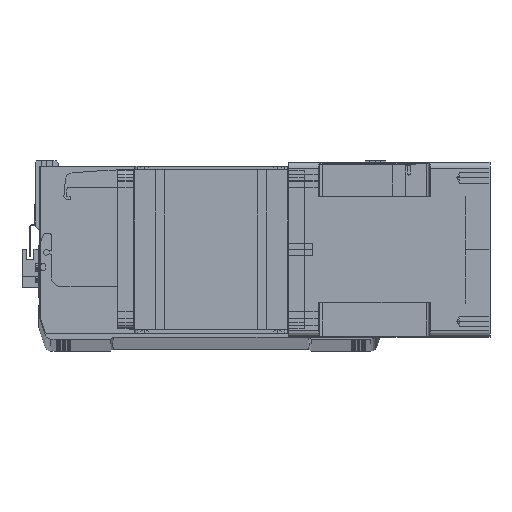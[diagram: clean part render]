
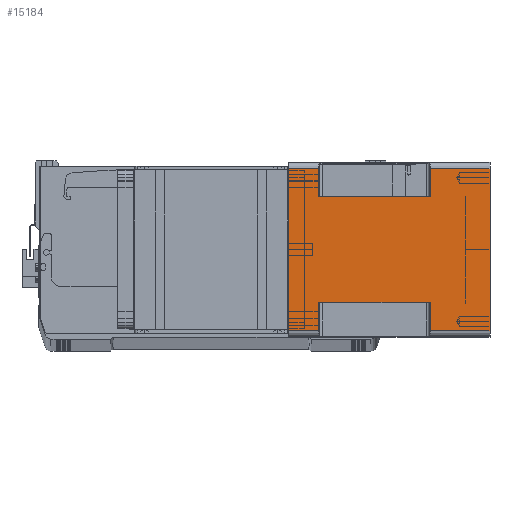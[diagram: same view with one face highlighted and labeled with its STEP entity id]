
A CAD part, top view. The second image highlights one B-rep face of the part: STEP entity #15184.
In plain terms, the highlighted planar face has unit normal (0, 0, 1) as drawn and (1, 0, 0) by its records, which use the part's own axes.
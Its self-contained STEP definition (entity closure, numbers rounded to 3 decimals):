
#41 = CARTESIAN_POINT ( 'NONE',  ( 71., 66., -115.5 ) ) ;
#83 = VECTOR ( 'NONE', #16522, 1000. ) ;
#257 = DIRECTION ( 'NONE',  ( 0., 1., 0. ) ) ;
#405 = LINE ( 'NONE', #7773, #21933 ) ;
#2217 = VERTEX_POINT ( 'NONE', #33979 ) ;
#2599 = LINE ( 'NONE', #5089, #26642 ) ;
#3379 = EDGE_CURVE ( 'NONE', #18017, #13677, #2599, .T. ) ;
#5081 = DIRECTION ( 'NONE',  ( 0., 1., 0. ) ) ;
#5089 = CARTESIAN_POINT ( 'NONE',  ( 71., -66., -164. ) ) ;
#5246 = LINE ( 'NONE', #26255, #12263 ) ;
#5418 = CARTESIAN_POINT ( 'NONE',  ( 71., -66., 0. ) ) ;
#7102 = VERTEX_POINT ( 'NONE', #8790 ) ;
#7237 = ORIENTED_EDGE ( 'NONE', *, *, #3379, .F. ) ;
#7278 = VECTOR ( 'NONE', #27387, 1000. ) ;
#7773 = CARTESIAN_POINT ( 'NONE',  ( 71., 43., -115.5 ) ) ;
#7896 = EDGE_CURVE ( 'NONE', #2217, #13677, #24557, .T. ) ;
#8319 = EDGE_CURVE ( 'NONE', #24211, #33119, #405, .T. ) ;
#8751 = EDGE_CURVE ( 'NONE', #26770, #28446, #14845, .T. ) ;
#8790 = CARTESIAN_POINT ( 'NONE',  ( 71., -66., 0. ) ) ;
#9278 = CARTESIAN_POINT ( 'NONE',  ( 71., 66., -24.5 ) ) ;
#9690 = CARTESIAN_POINT ( 'NONE',  ( 71., -66., -164. ) ) ;
#9747 = PLANE ( 'NONE',  #40061 ) ;
#10117 = LINE ( 'NONE', #5418, #24673 ) ;
#10545 = CARTESIAN_POINT ( 'NONE',  ( 71., 66., -164. ) ) ;
#10808 = EDGE_CURVE ( 'NONE', #17844, #15624, #33464, .T. ) ;
#10998 = CARTESIAN_POINT ( 'NONE',  ( 71., -66., -115.5 ) ) ;
#11136 = ORIENTED_EDGE ( 'NONE', *, *, #8751, .T. ) ;
#11384 = DIRECTION ( 'NONE',  ( 0., 0., 1. ) ) ;
#11915 = EDGE_CURVE ( 'NONE', #2217, #28446, #20369, .T. ) ;
#11996 = VECTOR ( 'NONE', #40745, 1000. ) ;
#12146 = CARTESIAN_POINT ( 'NONE',  ( 71., 66., -164. ) ) ;
#12263 = VECTOR ( 'NONE', #29700, 1000. ) ;
#12268 = ORIENTED_EDGE ( 'NONE', *, *, #23526, .T. ) ;
#12367 = VECTOR ( 'NONE', #5081, 1000. ) ;
#12579 = ORIENTED_EDGE ( 'NONE', *, *, #36401, .F. ) ;
#12890 = CARTESIAN_POINT ( 'NONE',  ( 71., 43., -164. ) ) ;
#13677 = VERTEX_POINT ( 'NONE', #10998 ) ;
#13812 = EDGE_CURVE ( 'NONE', #7102, #21813, #10117, .T. ) ;
#13923 = DIRECTION ( 'NONE',  ( 0., 0., 1. ) ) ;
#14845 = LINE ( 'NONE', #27779, #12367 ) ;
#14854 = LINE ( 'NONE', #18992, #21386 ) ;
#14945 = CARTESIAN_POINT ( 'NONE',  ( 71., -66., -115.5 ) ) ;
#15184 = ADVANCED_FACE ( 'NONE', ( #24360 ), #9747, .T. ) ;
#15356 = ORIENTED_EDGE ( 'NONE', *, *, #15687, .T. ) ;
#15615 = DIRECTION ( 'NONE',  ( 0., 0., 1. ) ) ;
#15624 = VERTEX_POINT ( 'NONE', #9278 ) ;
#15687 = EDGE_CURVE ( 'NONE', #18017, #31133, #5246, .T. ) ;
#15798 = LINE ( 'NONE', #10545, #7278 ) ;
#16210 = CARTESIAN_POINT ( 'NONE',  ( 71., -66., -164. ) ) ;
#16522 = DIRECTION ( 'NONE',  ( 0., 0., 1. ) ) ;
#17844 = VERTEX_POINT ( 'NONE', #34806 ) ;
#18017 = VERTEX_POINT ( 'NONE', #9690 ) ;
#18992 = CARTESIAN_POINT ( 'NONE',  ( 71., 66., -164. ) ) ;
#19650 = ORIENTED_EDGE ( 'NONE', *, *, #8319, .T. ) ;
#20340 = ORIENTED_EDGE ( 'NONE', *, *, #22158, .T. ) ;
#20369 = LINE ( 'NONE', #36308, #34417 ) ;
#21386 = VECTOR ( 'NONE', #15615, 1000. ) ;
#21813 = VERTEX_POINT ( 'NONE', #40743 ) ;
#21933 = VECTOR ( 'NONE', #30020, 1000. ) ;
#22037 = DIRECTION ( 'NONE',  ( 0., 1., 0. ) ) ;
#22158 = EDGE_CURVE ( 'NONE', #15624, #21813, #15798, .T. ) ;
#23526 = EDGE_CURVE ( 'NONE', #31133, #24211, #14854, .T. ) ;
#23902 = EDGE_LOOP ( 'NONE', ( #25556, #40065, #7237, #15356, #12268, #19650, #24331, #29841, #20340, #24419, #12579, #11136 ) ) ;
#24211 = VERTEX_POINT ( 'NONE', #41 ) ;
#24331 = ORIENTED_EDGE ( 'NONE', *, *, #29428, .F. ) ;
#24360 = FACE_OUTER_BOUND ( 'NONE', #23902, .T. ) ;
#24419 = ORIENTED_EDGE ( 'NONE', *, *, #13812, .F. ) ;
#24557 = LINE ( 'NONE', #14945, #11996 ) ;
#24673 = VECTOR ( 'NONE', #24887, 1000. ) ;
#24887 = DIRECTION ( 'NONE',  ( 0., 1., 0. ) ) ;
#25120 = CARTESIAN_POINT ( 'NONE',  ( 71., -66., -24.5 ) ) ;
#25504 = DIRECTION ( 'NONE',  ( 0., 0., -1. ) ) ;
#25556 = ORIENTED_EDGE ( 'NONE', *, *, #11915, .F. ) ;
#26255 = CARTESIAN_POINT ( 'NONE',  ( 71., -66., -164. ) ) ;
#26467 = CARTESIAN_POINT ( 'NONE',  ( 71., -66., -164. ) ) ;
#26642 = VECTOR ( 'NONE', #11384, 1000. ) ;
#26770 = VERTEX_POINT ( 'NONE', #37824 ) ;
#27158 = LINE ( 'NONE', #26467, #83 ) ;
#27387 = DIRECTION ( 'NONE',  ( 0., 0., 1. ) ) ;
#27779 = CARTESIAN_POINT ( 'NONE',  ( 71., -43., -24.5 ) ) ;
#28446 = VERTEX_POINT ( 'NONE', #37056 ) ;
#29428 = EDGE_CURVE ( 'NONE', #17844, #33119, #33909, .T. ) ;
#29700 = DIRECTION ( 'NONE',  ( 0., 1., 0. ) ) ;
#29841 = ORIENTED_EDGE ( 'NONE', *, *, #10808, .T. ) ;
#30020 = DIRECTION ( 'NONE',  ( 0., -1., 0. ) ) ;
#30494 = CARTESIAN_POINT ( 'NONE',  ( 71., 43., -115.5 ) ) ;
#31133 = VERTEX_POINT ( 'NONE', #12146 ) ;
#31443 = VECTOR ( 'NONE', #22037, 1000. ) ;
#31891 = VECTOR ( 'NONE', #25504, 1000. ) ;
#33119 = VERTEX_POINT ( 'NONE', #30494 ) ;
#33464 = LINE ( 'NONE', #25120, #31443 ) ;
#33909 = LINE ( 'NONE', #12890, #31891 ) ;
#33979 = CARTESIAN_POINT ( 'NONE',  ( 71., -43., -115.5 ) ) ;
#34417 = VECTOR ( 'NONE', #13923, 1000. ) ;
#34806 = CARTESIAN_POINT ( 'NONE',  ( 71., 43., -24.5 ) ) ;
#35797 = DIRECTION ( 'NONE',  ( 1., 0., 0. ) ) ;
#36308 = CARTESIAN_POINT ( 'NONE',  ( 71., -43., -164. ) ) ;
#36401 = EDGE_CURVE ( 'NONE', #26770, #7102, #27158, .T. ) ;
#37056 = CARTESIAN_POINT ( 'NONE',  ( 71., -43., -24.5 ) ) ;
#37824 = CARTESIAN_POINT ( 'NONE',  ( 71., -66., -24.5 ) ) ;
#40061 = AXIS2_PLACEMENT_3D ( 'NONE', #16210, #35797, #257 ) ;
#40065 = ORIENTED_EDGE ( 'NONE', *, *, #7896, .T. ) ;
#40743 = CARTESIAN_POINT ( 'NONE',  ( 71., 66., 0. ) ) ;
#40745 = DIRECTION ( 'NONE',  ( 0., -1., 0. ) ) ;
